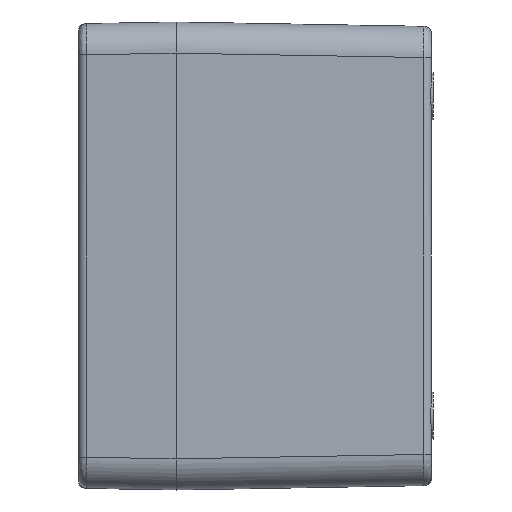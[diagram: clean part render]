
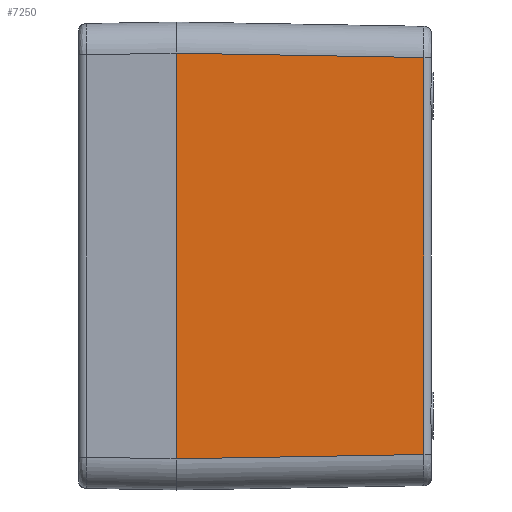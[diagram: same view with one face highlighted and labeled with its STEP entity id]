
A CAD part, left-side view. The second image highlights one B-rep face of the part: STEP entity #7250.
In plain terms, the highlighted planar face has unit normal (-1, -0.018, 0).
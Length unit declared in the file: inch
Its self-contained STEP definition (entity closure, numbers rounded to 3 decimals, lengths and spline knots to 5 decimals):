
#438 = EDGE_LOOP ( 'NONE', ( #6552, #6551, #6550, #6549 ) ) ;
#5845 = LINE ( 'NONE', #15039, #5865 ) ;
#5851 = VECTOR ( 'NONE', #15027, 39.37008 ) ;
#5859 = LINE ( 'NONE', #15026, #5851 ) ;
#5862 = LINE ( 'NONE', #15030, #5863 ) ;
#5863 = VECTOR ( 'NONE', #15031, 39.37008 ) ;
#5865 = VECTOR ( 'NONE', #15040, 39.37008 ) ;
#6549 = ORIENTED_EDGE ( 'NONE', *, *, #11030, .T. ) ;
#6550 = ORIENTED_EDGE ( 'NONE', *, *, #13209, .F. ) ;
#6551 = ORIENTED_EDGE ( 'NONE', *, *, #13213, .F. ) ;
#6552 = ORIENTED_EDGE ( 'NONE', *, *, #13207, .T. ) ;
#7250 = ADVANCED_FACE ( 'NONE', ( #10070 ), #8139, .T. ) ;
#7546 = VECTOR ( 'NONE', #8631, 39.37008 ) ;
#7552 = LINE ( 'NONE', #8630, #7546 ) ;
#8139 = PLANE ( 'NONE',  #10234 ) ;
#8142 = DIRECTION ( 'NONE',  ( 0.017, -1., 0. ) ) ;
#8143 = DIRECTION ( 'NONE',  ( -1., -0.017, 0. ) ) ;
#8149 = CARTESIAN_POINT ( 'NONE',  ( -4.33071, 0., -2.53181 ) ) ;
#8630 = CARTESIAN_POINT ( 'NONE',  ( -4.33071, 0., -2.53181 ) ) ;
#8631 = DIRECTION ( 'NONE',  ( 0., 0., -1. ) ) ;
#10070 = FACE_OUTER_BOUND ( 'NONE', #438, .T. ) ;
#10234 = AXIS2_PLACEMENT_3D ( 'NONE', #8149, #8143, #8142 ) ;
#11030 = EDGE_CURVE ( 'NONE', #13356, #13338, #7552, .T. ) ;
#11131 = VERTEX_POINT ( 'NONE', #12482 ) ;
#11319 = VERTEX_POINT ( 'NONE', #12599 ) ;
#12482 = CARTESIAN_POINT ( 'NONE',  ( -4.28705, -2.50137, -2.00363 ) ) ;
#12599 = CARTESIAN_POINT ( 'NONE',  ( -4.28704, -2.50137, 2.00363 ) ) ;
#13207 = EDGE_CURVE ( 'NONE', #13338, #11131, #5859, .T. ) ;
#13209 = EDGE_CURVE ( 'NONE', #13356, #11319, #5862, .T. ) ;
#13213 = EDGE_CURVE ( 'NONE', #11319, #11131, #5845, .T. ) ;
#13338 = VERTEX_POINT ( 'NONE', #14710 ) ;
#13356 = VERTEX_POINT ( 'NONE', #14759 ) ;
#14710 = CARTESIAN_POINT ( 'NONE',  ( -4.33071, 0., -2.04729 ) ) ;
#14759 = CARTESIAN_POINT ( 'NONE',  ( -4.33071, 0., 2.04729 ) ) ;
#15026 = CARTESIAN_POINT ( 'NONE',  ( -4.33071, 0., -2.04729 ) ) ;
#15027 = DIRECTION ( 'NONE',  ( 0.017, -1., 0.017 ) ) ;
#15030 = CARTESIAN_POINT ( 'NONE',  ( -4.33101, 0.01698, 2.04759 ) ) ;
#15031 = DIRECTION ( 'NONE',  ( 0.017, -1., -0.017 ) ) ;
#15039 = CARTESIAN_POINT ( 'NONE',  ( -4.28705, -2.50137, 2.071 ) ) ;
#15040 = DIRECTION ( 'NONE',  ( 0., 0., -1. ) ) ;
